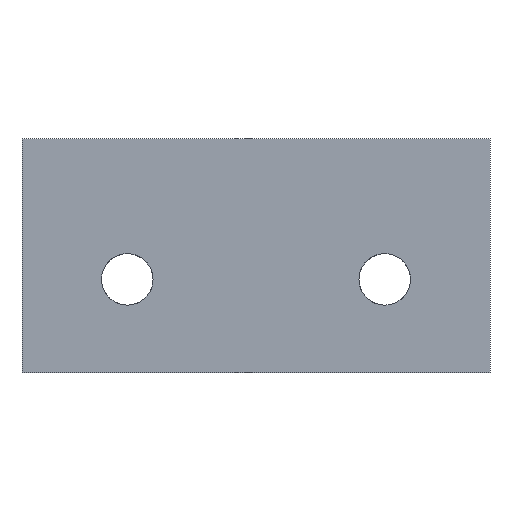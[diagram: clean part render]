
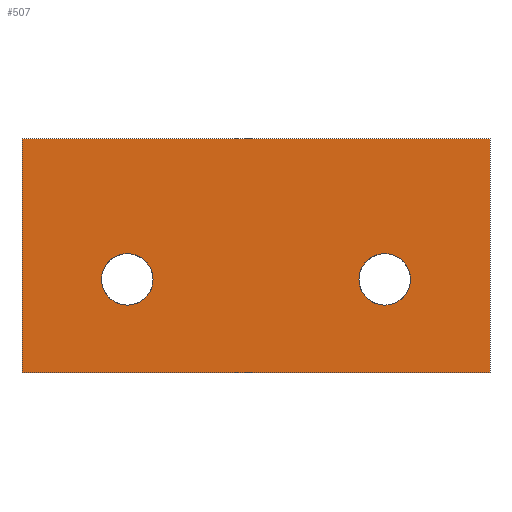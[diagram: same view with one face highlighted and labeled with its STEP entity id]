
A CAD part, left-side view. The second image highlights one B-rep face of the part: STEP entity #507.
In plain terms, the highlighted planar face has unit normal (-1, 0, 0).
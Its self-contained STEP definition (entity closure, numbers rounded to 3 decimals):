
#265=CARTESIAN_POINT('Vertex',(0.,200.,0.)) ;
#272=CARTESIAN_POINT('Vertex',(0.,0.,0.)) ;
#275=CARTESIAN_POINT('Line Origine',(0.,100.,0.)) ;
#292=CARTESIAN_POINT('Line Origine',(0.,200.,50.)) ;
#296=CARTESIAN_POINT('Vertex',(0.,200.,100.)) ;
#316=CARTESIAN_POINT('Line Origine',(0.,100.,100.)) ;
#320=CARTESIAN_POINT('Vertex',(0.,0.,100.)) ;
#340=CARTESIAN_POINT('Line Origine',(0.,0.,50.)) ;
#361=CARTESIAN_POINT('Vertex',(0.,155.,51.)) ;
#364=CARTESIAN_POINT('Axis2P3D Location',(0.,155.,40.)) ;
#368=CARTESIAN_POINT('Vertex',(0.,166.,40.)) ;
#371=CARTESIAN_POINT('Axis2P3D Location',(0.,155.,40.)) ;
#375=CARTESIAN_POINT('Vertex',(0.,155.,29.)) ;
#397=CARTESIAN_POINT('Axis2P3D Location',(0.,155.,40.)) ;
#401=CARTESIAN_POINT('Vertex',(0.,144.,40.)) ;
#404=CARTESIAN_POINT('Axis2P3D Location',(0.,155.,40.)) ;
#427=CARTESIAN_POINT('Vertex',(0.,45.,51.)) ;
#430=CARTESIAN_POINT('Axis2P3D Location',(0.,45.,40.)) ;
#434=CARTESIAN_POINT('Vertex',(0.,56.,40.)) ;
#437=CARTESIAN_POINT('Axis2P3D Location',(0.,45.,40.)) ;
#441=CARTESIAN_POINT('Vertex',(0.,45.,29.)) ;
#463=CARTESIAN_POINT('Axis2P3D Location',(0.,45.,40.)) ;
#467=CARTESIAN_POINT('Vertex',(0.,34.,40.)) ;
#470=CARTESIAN_POINT('Axis2P3D Location',(0.,45.,40.)) ;
#484=CARTESIAN_POINT('Axis2P3D Location',(0.,200.,100.)) ;
#276=DIRECTION('Vector Direction',(0.,-1.,0.)) ;
#293=DIRECTION('Vector Direction',(0.,0.,-1.)) ;
#317=DIRECTION('Vector Direction',(0.,-1.,0.)) ;
#341=DIRECTION('Vector Direction',(0.,0.,-1.)) ;
#365=DIRECTION('Axis2P3D Direction',(-1.,-0.,0.)) ;
#372=DIRECTION('Axis2P3D Direction',(-1.,-0.,0.)) ;
#398=DIRECTION('Axis2P3D Direction',(-1.,-0.,-0.)) ;
#405=DIRECTION('Axis2P3D Direction',(-1.,-0.,-0.)) ;
#431=DIRECTION('Axis2P3D Direction',(-1.,-0.,0.)) ;
#438=DIRECTION('Axis2P3D Direction',(-1.,-0.,0.)) ;
#464=DIRECTION('Axis2P3D Direction',(-1.,-0.,-0.)) ;
#471=DIRECTION('Axis2P3D Direction',(-1.,-0.,-0.)) ;
#485=DIRECTION('Axis2P3D Direction',(1.,0.,-0.)) ;
#486=DIRECTION('Axis2P3D XDirection',(-0.,0.,-1.)) ;
#366=AXIS2_PLACEMENT_3D('Circle Axis2P3D',#364,#365,$) ;
#373=AXIS2_PLACEMENT_3D('Circle Axis2P3D',#371,#372,$) ;
#399=AXIS2_PLACEMENT_3D('Circle Axis2P3D',#397,#398,$) ;
#406=AXIS2_PLACEMENT_3D('Circle Axis2P3D',#404,#405,$) ;
#432=AXIS2_PLACEMENT_3D('Circle Axis2P3D',#430,#431,$) ;
#439=AXIS2_PLACEMENT_3D('Circle Axis2P3D',#437,#438,$) ;
#465=AXIS2_PLACEMENT_3D('Circle Axis2P3D',#463,#464,$) ;
#472=AXIS2_PLACEMENT_3D('Circle Axis2P3D',#470,#471,$) ;
#487=AXIS2_PLACEMENT_3D('Plane Axis2P3D',#484,#485,#486) ;
#490=ORIENTED_EDGE('',*,*,#279,.T.) ;
#491=ORIENTED_EDGE('',*,*,#344,.F.) ;
#492=ORIENTED_EDGE('',*,*,#322,.F.) ;
#493=ORIENTED_EDGE('',*,*,#298,.T.) ;
#496=ORIENTED_EDGE('',*,*,#370,.T.) ;
#497=ORIENTED_EDGE('',*,*,#408,.T.) ;
#498=ORIENTED_EDGE('',*,*,#403,.T.) ;
#499=ORIENTED_EDGE('',*,*,#377,.T.) ;
#502=ORIENTED_EDGE('',*,*,#436,.T.) ;
#503=ORIENTED_EDGE('',*,*,#474,.T.) ;
#504=ORIENTED_EDGE('',*,*,#469,.T.) ;
#505=ORIENTED_EDGE('',*,*,#443,.T.) ;
#500=FACE_BOUND('',#495,.T.) ;
#506=FACE_BOUND('',#501,.T.) ;
#277=VECTOR('Line Direction',#276,1.) ;
#294=VECTOR('Line Direction',#293,1.) ;
#318=VECTOR('Line Direction',#317,1.) ;
#342=VECTOR('Line Direction',#341,1.) ;
#507=ADVANCED_FACE('A612-100-2001',(#494,#500,#506),#488,.F.) ;
#367=CIRCLE('generated circle',#366,11.) ;
#374=CIRCLE('generated circle',#373,11.) ;
#400=CIRCLE('generated circle',#399,11.) ;
#407=CIRCLE('generated circle',#406,11.) ;
#433=CIRCLE('generated circle',#432,11.) ;
#440=CIRCLE('generated circle',#439,11.) ;
#466=CIRCLE('generated circle',#465,11.) ;
#473=CIRCLE('generated circle',#472,11.) ;
#279=EDGE_CURVE('',#266,#273,#278,.T.) ;
#298=EDGE_CURVE('',#297,#266,#295,.T.) ;
#322=EDGE_CURVE('',#297,#321,#319,.T.) ;
#344=EDGE_CURVE('',#321,#273,#343,.T.) ;
#370=EDGE_CURVE('',#369,#362,#367,.F.) ;
#377=EDGE_CURVE('',#376,#369,#374,.F.) ;
#403=EDGE_CURVE('',#402,#376,#400,.F.) ;
#408=EDGE_CURVE('',#362,#402,#407,.F.) ;
#436=EDGE_CURVE('',#435,#428,#433,.F.) ;
#443=EDGE_CURVE('',#442,#435,#440,.F.) ;
#469=EDGE_CURVE('',#468,#442,#466,.F.) ;
#474=EDGE_CURVE('',#428,#468,#473,.F.) ;
#489=EDGE_LOOP('',(#490,#491,#492,#493)) ;
#495=EDGE_LOOP('',(#496,#497,#498,#499)) ;
#501=EDGE_LOOP('',(#502,#503,#504,#505)) ;
#494=FACE_OUTER_BOUND('',#489,.T.) ;
#278=LINE('Line',#275,#277) ;
#295=LINE('Line',#292,#294) ;
#319=LINE('Line',#316,#318) ;
#343=LINE('Line',#340,#342) ;
#488=PLANE('Plane',#487) ;
#266=VERTEX_POINT('',#265) ;
#273=VERTEX_POINT('',#272) ;
#297=VERTEX_POINT('',#296) ;
#321=VERTEX_POINT('',#320) ;
#362=VERTEX_POINT('',#361) ;
#369=VERTEX_POINT('',#368) ;
#376=VERTEX_POINT('',#375) ;
#402=VERTEX_POINT('',#401) ;
#428=VERTEX_POINT('',#427) ;
#435=VERTEX_POINT('',#434) ;
#442=VERTEX_POINT('',#441) ;
#468=VERTEX_POINT('',#467) ;
